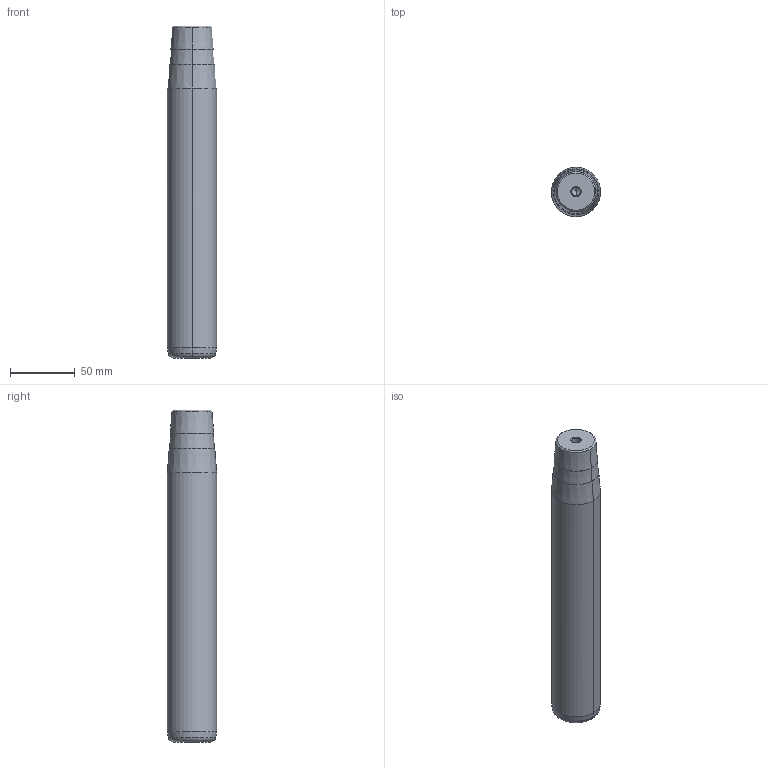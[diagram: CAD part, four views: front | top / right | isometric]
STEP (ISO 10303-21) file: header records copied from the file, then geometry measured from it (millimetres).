
FILE_DESCRIPTION(('CATIA V5 STEP Exchange'),'2;1');
FILE_NAME('C:\Users\Utente\Desktop\IO LAVORO\3D X SITO CF\X SITO\722\722-38x224x257.stp','2021-01-08T16:02:32+00:00',('none'),('none'),'CATIA Version 5 Release 20 GA (IN-10)','CATIA V5 STEP AP203','none');
FILE_SCHEMA(('CONFIG_CONTROL_DESIGN'));
Length unit declared in the file: millimetre
Products named in the file (1): 722-38x224x257
Bounding box: 38 x 38 x 257 mm (x, y, z)
Volume: 278719.4 mm3; surface area: 32808.3 mm2
Topology: 1 solids, 1 shells, 32 faces, 98 edges, 66 vertices
Faces by surface type: cone 22, cylinder 6, plane 2, torus 2
Entity records: 1166 total; most frequent: CARTESIAN_POINT 279, ORIENTED_EDGE 188, DIRECTION 148, EDGE_CURVE 94, AXIS2_PLACEMENT_3D 89, VERTEX_POINT 66, CIRCLE 56, EDGE_LOOP 34
